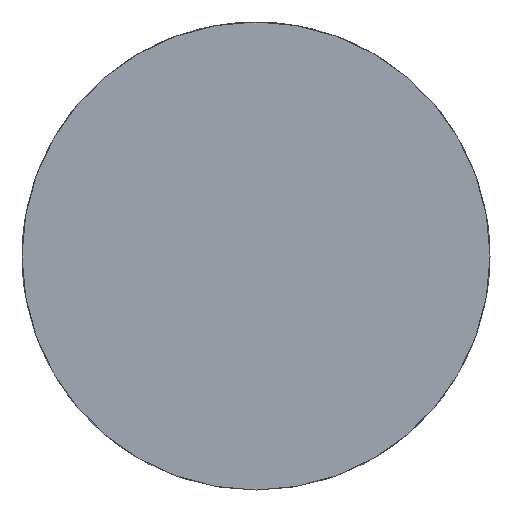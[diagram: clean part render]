
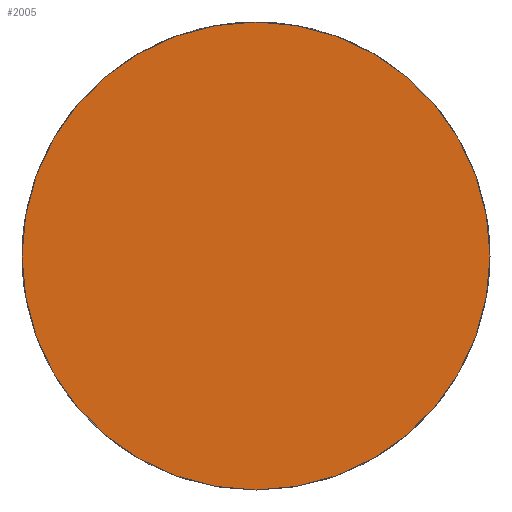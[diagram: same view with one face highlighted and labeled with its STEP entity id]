
A CAD part, front view. The second image highlights one B-rep face of the part: STEP entity #2005.
In plain terms, the highlighted planar face has unit normal (0, -1, 0).
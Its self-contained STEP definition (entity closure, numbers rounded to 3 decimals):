
#44 = FACE_OUTER_BOUND ( 'NONE', #1971, .T. ) ;
#165 = EDGE_CURVE ( 'NONE', #1210, #1210, #2341, .T. ) ;
#409 = DIRECTION ( 'NONE',  ( 0., 1., 0. ) ) ;
#462 = AXIS2_PLACEMENT_3D ( 'NONE', #1909, #409, #2269 ) ;
#609 = DIRECTION ( 'NONE',  ( 0., -1., 0. ) ) ;
#625 = CARTESIAN_POINT ( 'NONE',  ( 0., 0., 0. ) ) ;
#1155 = PLANE ( 'NONE',  #462 ) ;
#1210 = VERTEX_POINT ( 'NONE', #1244 ) ;
#1244 = CARTESIAN_POINT ( 'NONE',  ( 0., 0., -40. ) ) ;
#1319 = ORIENTED_EDGE ( 'NONE', *, *, #165, .T. ) ;
#1566 = DIRECTION ( 'NONE',  ( 0., 0., -1. ) ) ;
#1673 = AXIS2_PLACEMENT_3D ( 'NONE', #625, #609, #1566 ) ;
#1909 = CARTESIAN_POINT ( 'NONE',  ( 0., 0., 0. ) ) ;
#1971 = EDGE_LOOP ( 'NONE', ( #1319 ) ) ;
#2005 = ADVANCED_FACE ( 'NONE', ( #44 ), #1155, .F. ) ;
#2269 = DIRECTION ( 'NONE',  ( 0., 0., 1. ) ) ;
#2341 = CIRCLE ( 'NONE', #1673, 40. ) ;
